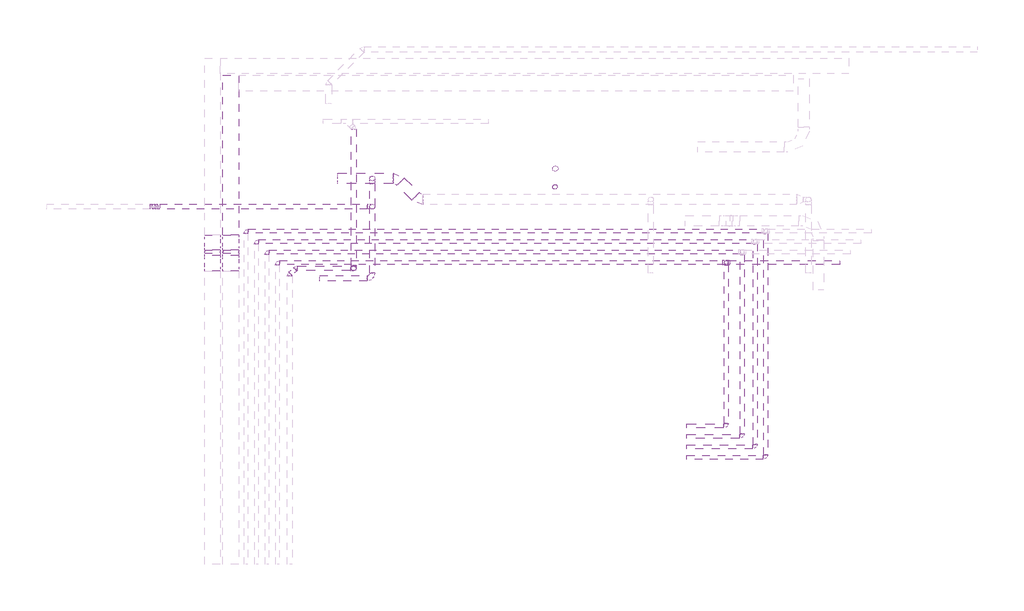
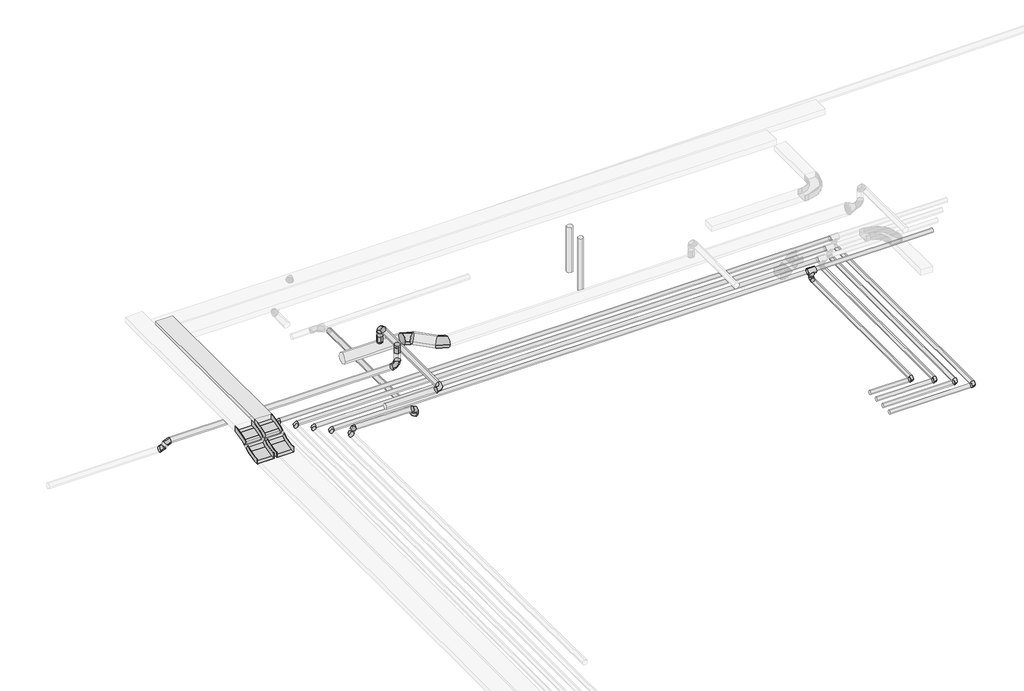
# One storey, part 4 of 5: 20 pipe segments, 14 pipe fittings, 9 duct fittings, 8 duct segments, 4 cable carrier fittings, 3 cable carrier segments.
"""IFC4 building model written with IfcOpenShell, lengths in millimetres."""

from ifc_helpers import new_model, si_unit, point, frame, frame_2d, origin, place, context, project, spatial, polyline, circle_curve, trimmed, segment, composite_curve, outline, extrude, transform, mapped, element, save
from components import m_codo_vertical_exterior_de_canal_el_c4dc7364, m_codo_vertical_interior_de_canal_el_3f65be50, ext_088e3dfa, ext_562ff85e, m_codo_redondo_ext_1_d_85067ab4, m_codo_redondo_ext_1_d_96ea52f9, m_codo_redondo_ext_1_d_d62552e0, m_codo_redondo_ext_1_d_b5125265, pipe_fitting_688cd524, pipe_fitting_7b861d32, pipe_fitting_3a68447e, t_soldadura_a_enchufe_ff252817

model = new_model("IFC4")

# Units and contexts
model_context = context("Model", 3, world=origin())
ifc_project = project(units=[si_unit("LENGTHUNIT", "METRE", prefix="MILLI")], contexts=[model_context])

# Site, building, storey
site = spatial("IfcSite", under=ifc_project)
building = spatial("IfcBuilding", under=site)
storey = spatial("IfcBuildingStorey", under=building, Name="Nivell 03 P03_PP", Elevation=18660.0)

# Cable carrier fittings
placement = place(None, origin())
m_codo_vertical_exterior_de_canal_el_shape = m_codo_vertical_exterior_de_canal_el_c4dc7364(model_context)
element("IfcCableCarrierFitting", 1, ObjectType="M_Codo vertical exterior de canal : EL", at=placement, inside=storey, context=model_context, shape_type="MappedRepresentation", body=[
    mapped(m_codo_vertical_exterior_de_canal_el_shape, transform((5357.0671065, 6149.6159499, 21960.0), x_axis=(0.0, -1.0, 0.0), y_axis=(0.0, 0.0, -1.0), z_axis=(1.0, 0.0, 0.0))),
])
element("IfcCableCarrierFitting", 2, ObjectType="M_Codo vertical exterior de canal : EL", at=placement, inside=storey, context=model_context, shape_type="MappedRepresentation", body=[
    mapped(m_codo_vertical_exterior_de_canal_el_shape, transform((5008.2381883, 6149.6159499, 21960.0), x_axis=(0.0, -1.0, 0.0), y_axis=(0.0, 0.0, -1.0), z_axis=(1.0, 0.0, 0.0))),
])
m_codo_vertical_interior_de_canal_el_shape = m_codo_vertical_interior_de_canal_el_3f65be50(model_context)
element("IfcCableCarrierFitting", 3, ObjectType="M_Codo vertical interior de canal : EL", at=placement, inside=storey, context=model_context, shape_type="MappedRepresentation", body=[
    mapped(m_codo_vertical_interior_de_canal_el_shape, transform((5357.0671065, 5803.2057884, 21760.0), x_axis=(0.0, -0.8660254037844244, -0.5000000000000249), y_axis=(0.0, -0.5000000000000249, 0.8660254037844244), z_axis=(-1.0, 0.0, 0.0))),
])
element("IfcCableCarrierFitting", 4, ObjectType="M_Codo vertical interior de canal : EL", at=placement, inside=storey, context=model_context, shape_type="MappedRepresentation", body=[
    mapped(m_codo_vertical_interior_de_canal_el_shape, transform((5008.2381883, 5803.2057884, 21760.0), x_axis=(0.0, -0.8660254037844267, -0.5000000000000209), y_axis=(0.0, -0.5000000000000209, 0.8660254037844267), z_axis=(-1.0, 0.0, 0.0))),
])

# Cable carrier segments
element("IfcCableCarrierSegment", 5, ObjectType="EL", at=placement, inside=storey, context=model_context, shape_type="SweptSolid", body=[
    extrude(outline(polyline([(5207.0671065, 9356.732053), (5507.0671065, 9356.732053), (5507.0671065, 6318.3981673), (5207.0671065, 6318.3981673), (5207.0671065, 9356.732053)])), frame((0.0, 0.0, 21910.0), z_axis=(0.0, 0.0, 1.0), x_axis=(1.0, 0.0, 0.0)), (0.0, 0.0, 1.0), 100.0),
])
element("IfcCableCarrierSegment", 6, ObjectType="EL", at=placement, inside=storey, context=model_context, shape_type="SweptSolid", body=[
    extrude(outline(polyline([(0.0, -300.0), (0.0, 0.0), (62.4355653, 0.0), (62.4355653, -300.0), (0.0, -300.0)])), frame((5507.0671065, 6028.446262, 21832.3076211), z_axis=(0.0, -0.5000000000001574, 0.8660254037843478), x_axis=(0.0, -0.8660254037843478, -0.5000000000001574)), (0.0, 0.0, 1.0), 100.0),
])
element("IfcCableCarrierSegment", 7, ObjectType="EL", at=placement, inside=storey, context=model_context, shape_type="SweptSolid", body=[
    extrude(outline(polyline([(0.0, -300.0), (0.0, 0.0), (62.4355653, 0.0), (62.4355653, -300.0), (0.0, -300.0)])), frame((5158.2381883, 6028.446262, 21832.3076211), z_axis=(0.0, -0.49999999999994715, 0.8660254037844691), x_axis=(0.0, -0.8660254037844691, -0.49999999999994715)), (0.0, 0.0, 1.0), 100.0),
])

# Duct fittings
ext_shape = ext_088e3dfa(model_context)
element("IfcDuctFitting", 8, ObjectType="M_Toma de derivación redonda : EXT", at=placement, inside=storey, context=model_context, shape_type="MappedRepresentation", body=[
    mapped(ext_shape, transform((8050.5896993, 6856.5337216, 22060.0), x_axis=(0.0, 0.0, -1.0), y_axis=(0.0, -1.0, 0.0), z_axis=(-1.0, 0.0, 0.0))),
])
ext_2_shape = ext_562ff85e(model_context)
element("IfcDuctFitting", 9, ObjectType="M_Toma de derivación redonda : EXT", at=placement, inside=storey, context=model_context, shape_type="MappedRepresentation", body=[
    mapped(ext_2_shape, transform((8050.5896993, 7392.2199701, 21840.0), x_axis=(0.0, 0.0, 1.0), y_axis=(-1.0, 0.0, 0.0), z_axis=(0.0, -1.0, 0.0))),
])
m_codo_redondo_ext_1_d_shape = m_codo_redondo_ext_1_d_85067ab4(model_context)
element("IfcDuctFitting", 10, ObjectType="M_Codo redondo : EXT_1 D", at=placement, inside=storey, context=model_context, shape_type="MappedRepresentation", body=[
    mapped(m_codo_redondo_ext_1_d_shape, transform((8050.5896993, 5490.7319202, 22110.0), x_axis=(1.0, 0.0, 0.0), y_axis=(0.0, 1.0, 0.0), z_axis=(0.0, 0.0, 1.0))),
])
element("IfcDuctFitting", 11, ObjectType="M_Codo redondo : EXT_1 D", at=placement, inside=storey, context=model_context, shape_type="MappedRepresentation", body=[
    mapped(m_codo_redondo_ext_1_d_shape, transform((8050.5896993, 6856.5337216, 21710.0), x_axis=(0.0, 0.0, -1.0), y_axis=(-1.0, 0.0, 0.0), z_axis=(0.0, 1.0, 0.0))),
])
m_codo_redondo_ext_1_d_2_shape = m_codo_redondo_ext_1_d_96ea52f9(model_context)
element("IfcDuctFitting", 12, ObjectType="M_Codo redondo : EXT_1 D", at=placement, inside=storey, context=model_context, shape_type="MappedRepresentation", body=[
    mapped(m_codo_redondo_ext_1_d_2_shape, transform((8050.5896993, 7392.2199701, 22110.0), x_axis=(0.0, 1.0, 0.0), y_axis=(0.0, 0.0, 1.0), z_axis=(1.0, 0.0, 0.0))),
])
m_codo_redondo_ext_1_d_3_shape = m_codo_redondo_ext_1_d_d62552e0(model_context)
element("IfcDuctFitting", 13, ObjectType="M_Codo redondo : EXT_1 D", at=placement, inside=storey, context=model_context, shape_type="MappedRepresentation", body=[
    mapped(m_codo_redondo_ext_1_d_3_shape, transform((8930.5896993, 6992.2199701, 21740.0), x_axis=(0.7071067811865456, -0.7071067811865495, 0.0), y_axis=(0.7071067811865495, 0.7071067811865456, 0.0), z_axis=(0.0, 0.0, 1.0))),
])
element("IfcDuctFitting", 14, ObjectType="M_Codo redondo : EXT_1 D", at=placement, inside=storey, context=model_context, shape_type="MappedRepresentation", body=[
    mapped(m_codo_redondo_ext_1_d_3_shape, transform((8530.5878282, 7392.2218412, 21740.0), x_axis=(-0.7071067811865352, 0.7071067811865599, 0.0), y_axis=(-0.7071067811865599, -0.7071067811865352, 0.0), z_axis=(0.0, 0.0, 1.0))),
])
m_codo_redondo_ext_1_d_4_shape = m_codo_redondo_ext_1_d_b5125265(model_context)
element("IfcDuctFitting", 15, ObjectType="M_Codo redondo : EXT_1 D", at=placement, inside=storey, context=model_context, shape_type="MappedRepresentation", body=[
    mapped(m_codo_redondo_ext_1_d_4_shape, transform((3864.5896993, 6856.5337216, 21610.0), x_axis=(1.0, 0.0, 0.0), y_axis=(0.0, 0.0, 1.0), z_axis=(0.0, -1.0, 0.0))),
])
element("IfcDuctFitting", 16, ObjectType="M_Codo redondo : EXT_1 D", at=placement, inside=storey, context=model_context, shape_type="MappedRepresentation", body=[
    mapped(m_codo_redondo_ext_1_d_4_shape, transform((3964.5896993, 6856.5337216, 21710.0), x_axis=(0.7071067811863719, 0.0, 0.7071067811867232), y_axis=(0.7071067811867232, 0.0, -0.7071067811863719), z_axis=(0.0, 1.0, 0.0))),
])

# Duct segments
element("IfcDuctSegment", 17, ObjectType="EXT_Acer Galvanitzat - Rígid", at=placement, inside=storey, context=model_context, shape_type="SweptSolid", body=[
    extrude(outline(composite_curve([segment(trimmed(circle_curve(frame_2d((5490.7319202, 22110.0)), 50.0), [point((5440.7319202, 22110.0))], [point((5490.7319202, 22160.0))], False, "CARTESIAN"), True, "CONTINUOUS"), segment(trimmed(circle_curve(frame_2d((5490.7319202, 22110.0)), 50.0), [point((5490.7319202, 22160.0))], [point((5540.7319202, 22110.0))], False, "CARTESIAN"), True, "CONTINUOUS"), segment(trimmed(circle_curve(frame_2d((5490.7319202, 22110.0)), 50.0), [point((5540.7319202, 22110.0))], [point((5490.7319202, 22060.0))], False, "CARTESIAN"), True, "CONTINUOUS"), segment(trimmed(circle_curve(frame_2d((5490.7319202, 22110.0)), 50.0), [point((5490.7319202, 22060.0))], [point((5440.7319202, 22110.0))], False, "CARTESIAN"), True, "CONTINUOUS")], self_intersect=False)), frame((7050.5896993, 0.0, 0.0), z_axis=(1.0, 0.0, 0.0), x_axis=(0.0, 1.0, 0.0)), (0.0, 0.0, 1.0), 900.0),
])
element("IfcDuctSegment", 18, ObjectType="EXT_Acer Galvanitzat - Rígid", at=placement, inside=storey, context=model_context, shape_type="SweptSolid", body=[
    extrude(outline(composite_curve([segment(trimmed(circle_curve(frame_2d((22110.0, 8050.5896993)), 50.0), [point((22110.0, 8000.5896993))], [point((22060.0, 8050.5896993))], False, "CARTESIAN"), True, "CONTINUOUS"), segment(trimmed(circle_curve(frame_2d((22110.0, 8050.5896993)), 50.0), [point((22060.0, 8050.5896993))], [point((22110.0, 8100.5896993))], False, "CARTESIAN"), True, "CONTINUOUS"), segment(trimmed(circle_curve(frame_2d((22110.0, 8050.5896993)), 50.0), [point((22110.0, 8100.5896993))], [point((22160.0, 8050.5896993))], False, "CARTESIAN"), True, "CONTINUOUS"), segment(trimmed(circle_curve(frame_2d((22110.0, 8050.5896993)), 50.0), [point((22160.0, 8050.5896993))], [point((22110.0, 8000.5896993))], False, "CARTESIAN"), True, "CONTINUOUS")], self_intersect=False)), frame((0.0, 5590.7319202, 0.0), z_axis=(0.0, 1.0, 0.0), x_axis=(0.0, 0.0, 1.0)), (0.0, 0.0, 1.0), 1701.48805),
])
element("IfcDuctSegment", 19, ObjectType="EXT_Acer Galvanitzat - Rígid", at=placement, inside=storey, context=model_context, shape_type="SweptSolid", body=[
    extrude(outline(composite_curve([segment(trimmed(circle_curve(frame_2d((8050.5896993, 7392.2199701)), 50.0), [point((8000.5896993, 7392.2199701))], [point((8050.5896993, 7442.2199701))], False, "CARTESIAN"), True, "CONTINUOUS"), segment(trimmed(circle_curve(frame_2d((8050.5896993, 7392.2199701)), 50.0), [point((8050.5896993, 7442.2199701))], [point((8100.5896993, 7392.2199701))], False, "CARTESIAN"), True, "CONTINUOUS"), segment(trimmed(circle_curve(frame_2d((8050.5896993, 7392.2199701)), 50.0), [point((8100.5896993, 7392.2199701))], [point((8050.5896993, 7342.2199701))], False, "CARTESIAN"), True, "CONTINUOUS"), segment(trimmed(circle_curve(frame_2d((8050.5896993, 7392.2199701)), 50.0), [point((8050.5896993, 7342.2199701))], [point((8000.5896993, 7392.2199701))], False, "CARTESIAN"), True, "CONTINUOUS")], self_intersect=False)), frame((0.0, 0.0, 21941.6), z_axis=(0.0, 0.0, 1.0), x_axis=(1.0, 0.0, 0.0)), (0.0, 0.0, 1.0), 68.4),
])
element("IfcDuctSegment", 20, ObjectType="EXT_Acer Galvanitzat - Rígid", at=placement, inside=storey, context=model_context, shape_type="SweptSolid", body=[
    extrude(outline(composite_curve([segment(trimmed(circle_curve(frame_2d((8050.5896993, 6856.5337216)), 50.0), [point((8050.5896993, 6906.5337216))], [point((8100.5896993, 6856.5337216))], False, "CARTESIAN"), True, "CONTINUOUS"), segment(trimmed(circle_curve(frame_2d((8050.5896993, 6856.5337216)), 50.0), [point((8100.5896993, 6856.5337216))], [point((8050.5896993, 6806.5337216))], False, "CARTESIAN"), True, "CONTINUOUS"), segment(trimmed(circle_curve(frame_2d((8050.5896993, 6856.5337216)), 50.0), [point((8050.5896993, 6806.5337216))], [point((8000.5896993, 6856.5337216))], False, "CARTESIAN"), True, "CONTINUOUS"), segment(trimmed(circle_curve(frame_2d((8050.5896993, 6856.5337216)), 50.0), [point((8000.5896993, 6856.5337216))], [point((8050.5896993, 6906.5337216))], False, "CARTESIAN"), True, "CONTINUOUS")], self_intersect=False)), frame((0.0, 0.0, 21810.0), z_axis=(0.0, 0.0, 1.0), x_axis=(1.0, 0.0, 0.0)), (0.0, 0.0, 1.0), 148.4),
])
element("IfcDuctSegment", 21, ObjectType="EXT_Acer Galvanitzat - Rígid", at=placement, inside=storey, context=model_context, shape_type="SweptSolid", body=[
    extrude(outline(composite_curve([segment(trimmed(circle_curve(frame_2d((0.0, 100.0)), 100.0), [point((100.0, 100.0))], [point((0.0, 0.0))], False, "CARTESIAN"), True, "CONTINUOUS"), segment(trimmed(circle_curve(frame_2d((0.0, 100.0)), 100.0), [point((0.0, 0.0))], [point((-100.0, 100.0))], False, "CARTESIAN"), True, "CONTINUOUS"), segment(trimmed(circle_curve(frame_2d((0.0, 100.0)), 100.0), [point((-100.0, 100.0))], [point((0.0, 200.0))], False, "CARTESIAN"), True, "CONTINUOUS"), segment(trimmed(circle_curve(frame_2d((0.0, 100.0)), 100.0), [point((0.0, 200.0))], [point((100.0, 100.0))], False, "CARTESIAN"), True, "CONTINUOUS")], self_intersect=False)), frame((8872.0110555, 7050.7986139, 21840.0), z_axis=(-0.7071067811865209, 0.7071067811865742, 0.0), x_axis=(0.7071067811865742, 0.7071067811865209, 0.0)), (0.0, 0.0, 1.0), 400.0026461),
])
element("IfcDuctSegment", 22, ObjectType="EXT_Acer Galvanitzat - Rígid", at=placement, inside=storey, context=model_context, shape_type="SweptSolid", body=[
    extrude(outline(composite_curve([segment(trimmed(circle_curve(frame_2d((7392.2218412, 21740.0)), 100.0), [point((7492.2218412, 21740.0))], [point((7392.2218412, 21640.0))], False, "CARTESIAN"), True, "CONTINUOUS"), segment(trimmed(circle_curve(frame_2d((7392.2218412, 21740.0)), 100.0), [point((7392.2218412, 21640.0))], [point((7292.2218412, 21740.0))], False, "CARTESIAN"), True, "CONTINUOUS"), segment(trimmed(circle_curve(frame_2d((7392.2218412, 21740.0)), 100.0), [point((7292.2218412, 21740.0))], [point((7392.2218412, 21840.0))], False, "CARTESIAN"), True, "CONTINUOUS"), segment(trimmed(circle_curve(frame_2d((7392.2218412, 21740.0)), 100.0), [point((7392.2218412, 21840.0))], [point((7492.2218412, 21740.0))], False, "CARTESIAN"), True, "CONTINUOUS")], self_intersect=False)), frame((7390.5878282, 0.0, 0.0), z_axis=(1.0, 0.0, 0.0), x_axis=(0.0, 1.0, 0.0)), (0.0, 0.0, 1.0), 1057.1572875),
])
element("IfcDuctSegment", 23, ObjectType="EXT_Acer Galvanitzat - Rígid", at=placement, inside=storey, context=model_context, shape_type="SweptSolid", body=[
    extrude(outline(composite_curve([segment(trimmed(circle_curve(frame_2d((0.0, 50.0)), 50.0), [point((0.0, 0.0))], [point((-49.9999999, 50.0))], False, "CARTESIAN"), True, "CONTINUOUS"), segment(trimmed(circle_curve(frame_2d((0.0, 50.0)), 50.0), [point((-49.9999999, 50.0))], [point((0.0, 100.0))], False, "CARTESIAN"), True, "CONTINUOUS"), segment(trimmed(circle_curve(frame_2d((0.0, 50.0)), 50.0), [point((0.0, 100.0))], [point((50.0000001, 50.0))], False, "CARTESIAN"), True, "CONTINUOUS"), segment(trimmed(circle_curve(frame_2d((0.0, 50.0)), 50.0), [point((50.0000001, 50.0))], [point((0.0, 0.0))], False, "CARTESIAN"), True, "CONTINUOUS")], self_intersect=False)), frame((3893.8790211, 6806.5337216, 21639.2893219), z_axis=(0.7071067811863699, 0.0, 0.7071067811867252), x_axis=(0.7071067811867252, 0.0, -0.7071067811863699)), (0.0, 0.0, 1.0), 58.5786438),
])
element("IfcDuctSegment", 24, ObjectType="EXT_Acer Galvanitzat - Rígid", at=placement, inside=storey, context=model_context, shape_type="SweptSolid", body=[
    extrude(outline(composite_curve([segment(trimmed(circle_curve(frame_2d((6856.5337216, 21710.0)), 50.0), [point((6906.5337216, 21710.0))], [point((6856.5337216, 21660.0))], False, "CARTESIAN"), True, "CONTINUOUS"), segment(trimmed(circle_curve(frame_2d((6856.5337216, 21710.0)), 50.0), [point((6856.5337216, 21660.0))], [point((6806.5337216, 21710.0))], False, "CARTESIAN"), True, "CONTINUOUS"), segment(trimmed(circle_curve(frame_2d((6856.5337216, 21710.0)), 50.0), [point((6806.5337216, 21710.0))], [point((6856.5337216, 21760.0))], False, "CARTESIAN"), True, "CONTINUOUS"), segment(trimmed(circle_curve(frame_2d((6856.5337216, 21710.0)), 50.0), [point((6856.5337216, 21760.0))], [point((6906.5337216, 21710.0))], False, "CARTESIAN"), True, "CONTINUOUS")], self_intersect=False)), frame((4006.0110555, 0.0, 0.0), z_axis=(1.0, 0.0, 0.0), x_axis=(0.0, 1.0, 0.0)), (0.0, 0.0, 1.0), 3944.5786438),
])

# Pipe fittings
pipe_fitting_shape = pipe_fitting_688cd524(model_context)
element("IfcPipeFitting", 25, ObjectType="M_Codo - Genérico : Estándar", at=placement, inside=storey, context=model_context, shape_type="MappedRepresentation", body=[
    mapped(pipe_fitting_shape, transform((7694.809888, 5681.3632161, 21744.4034263), x_axis=(0.9999500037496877, 0.0, -0.00999950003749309), y_axis=(-0.00999950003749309, 0.0, -0.9999500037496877), z_axis=(0.0, 1.0, 0.0))),
])
element("IfcPipeFitting", 26, ObjectType="M_Codo - Genérico : Estándar", at=placement, inside=storey, context=model_context, shape_type="MappedRepresentation", body=[
    mapped(pipe_fitting_shape, transform((7694.7858287, 5681.3903035, 21615.9087684), x_axis=(0.0, 0.0, -1.0), y_axis=(0.0, 1.0, 0.0), z_axis=(1.0, 0.0, 0.0))),
])
pipe_fitting_2_shape = pipe_fitting_7b861d32(model_context)
element("IfcPipeFitting", 27, ObjectType="M_Codo - Genérico : Estándar", at=placement, inside=storey, context=model_context, shape_type="MappedRepresentation", body=[
    mapped(pipe_fitting_2_shape, transform((6597.2281105, 5681.3586411, 21755.4028763), x_axis=(-0.9999500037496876, 0.0, 0.009999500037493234), y_axis=(4.1416859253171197e-05, -0.9999914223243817, 0.004141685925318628), z_axis=(0.009999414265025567, 0.004141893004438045, 0.9999414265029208))),
])
element("IfcPipeFitting", 28, ObjectType="M_Codo - Genérico : Estándar", at=placement, inside=storey, context=model_context, shape_type="MappedRepresentation", body=[
    mapped(pipe_fitting_2_shape, transform((6477.6345979, 5561.7651285, 21757.094184), x_axis=(-0.7070714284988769, -0.7070714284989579, 0.009999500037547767), y_axis=(0.7071300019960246, -0.7070714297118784, 0.00414168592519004), z_axis=(0.00414189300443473, 0.009999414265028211, 0.9999414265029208))),
])
pipe_fitting_3_shape = pipe_fitting_3a68447e(model_context)
element("IfcPipeFitting", 29, ObjectType="M_Codo - Genérico : Estándar", at=placement, inside=storey, context=model_context, shape_type="MappedRepresentation", body=[
    mapped(pipe_fitting_3_shape, transform((5645.7381883, 6394.2427547, 21772.5), x_axis=(-1.0, 0.0, 0.0), y_axis=(0.0, -1.0, 0.0), z_axis=(0.0, 0.0, 1.0))),
])
element("IfcPipeFitting", 30, ObjectType="M_Codo - Genérico : Estándar", at=placement, inside=storey, context=model_context, shape_type="MappedRepresentation", body=[
    mapped(pipe_fitting_3_shape, transform((5845.7381883, 6194.2427547, 21772.5), x_axis=(-1.0, 0.0, 0.0), y_axis=(0.0, -1.0, 0.0), z_axis=(0.0, 0.0, 1.0))),
])
element("IfcPipeFitting", 31, ObjectType="M_Codo - Genérico : Estándar", at=placement, inside=storey, context=model_context, shape_type="MappedRepresentation", body=[
    mapped(pipe_fitting_3_shape, transform((6045.7381883, 5994.2427547, 21772.5), x_axis=(-1.0, 0.0, 0.0), y_axis=(0.0, -1.0, 0.0), z_axis=(0.0, 0.0, 1.0))),
])
element("IfcPipeFitting", 32, ObjectType="M_Codo - Genérico : Estándar", at=placement, inside=storey, context=model_context, shape_type="MappedRepresentation", body=[
    mapped(pipe_fitting_3_shape, transform((6245.7381883, 5794.2427547, 21772.5), x_axis=(-1.0, 0.0, 0.0), y_axis=(0.0, -1.0, 0.0), z_axis=(0.0, 0.0, 1.0))),
])
element("IfcPipeFitting", 33, ObjectType="M_Codo - Genérico : Estándar", at=placement, inside=storey, context=model_context, shape_type="MappedRepresentation", body=[
    mapped(pipe_fitting_3_shape, transform((14787.4352568, 2683.4063617, 21622.5), x_axis=(1.0, 0.0, 0.0), y_axis=(0.0, 1.0, 0.0), z_axis=(0.0, 0.0, 1.0))),
])
element("IfcPipeFitting", 34, ObjectType="M_Codo - Genérico : Estándar", at=placement, inside=storey, context=model_context, shape_type="MappedRepresentation", body=[
    mapped(pipe_fitting_3_shape, transform((14787.4352568, 5794.2427547, 21622.5), x_axis=(0.0, 0.0, -1.0), y_axis=(0.0, -1.0, 0.0), z_axis=(-1.0, 0.0, 0.0))),
])
element("IfcPipeFitting", 35, ObjectType="M_Codo - Genérico : Estándar", at=placement, inside=storey, context=model_context, shape_type="MappedRepresentation", body=[
    mapped(pipe_fitting_3_shape, transform((15087.4352568, 2483.4063617, 21622.5), x_axis=(1.0, 0.0, 0.0), y_axis=(0.0, 1.0, 0.0), z_axis=(0.0, 0.0, 1.0))),
])
element("IfcPipeFitting", 36, ObjectType="M_Codo - Genérico : Estándar", at=placement, inside=storey, context=model_context, shape_type="MappedRepresentation", body=[
    mapped(pipe_fitting_3_shape, transform((15337.4352568, 2283.4063617, 21622.5), x_axis=(1.0, 0.0, 0.0), y_axis=(0.0, 1.0, 0.0), z_axis=(0.0, 0.0, 1.0))),
])
element("IfcPipeFitting", 37, ObjectType="M_Codo - Genérico : Estándar", at=placement, inside=storey, context=model_context, shape_type="MappedRepresentation", body=[
    mapped(pipe_fitting_3_shape, transform((15537.4352568, 2083.4063617, 21622.5), x_axis=(1.0, 0.0, 0.0), y_axis=(0.0, 1.0, 0.0), z_axis=(0.0, 0.0, 1.0))),
])
t_soldadura_a_enchufe_shape = t_soldadura_a_enchufe_ff252817(model_context)
element("IfcPipeFitting", 38, ObjectType="T-Soldadura a enchufe : Estándar", at=placement, inside=storey, context=model_context, shape_type="MappedRepresentation", body=[
    mapped(t_soldadura_a_enchufe_shape, transform((14787.4352568, 5794.2427547, 21772.5), x_axis=(-1.0, 0.0, 0.0), y_axis=(0.0, 0.0, 1.0), z_axis=(0.0, 1.0, 0.0))),
])

# Pipe segments
element("IfcPipeSegment", 39, ObjectType="PVC_Baixant", at=placement, inside=storey, context=model_context, shape_type="SweptSolid", body=[
    extrude(outline(composite_curve([segment(trimmed(circle_curve(frame_2d((11534.5619983, 7581.1908892)), 55.0), [point((11479.5619983, 7581.1908892))], [point((11534.5619983, 7636.1908892))], False, "CARTESIAN"), True, "CONTINUOUS"), segment(trimmed(circle_curve(frame_2d((11534.5619983, 7581.1908892)), 55.0), [point((11534.5619983, 7636.1908892))], [point((11589.5619983, 7581.1908892))], False, "CARTESIAN"), True, "CONTINUOUS"), segment(trimmed(circle_curve(frame_2d((11534.5619983, 7581.1908892)), 55.0), [point((11589.5619983, 7581.1908892))], [point((11534.5619983, 7526.1908892))], False, "CARTESIAN"), True, "CONTINUOUS"), segment(trimmed(circle_curve(frame_2d((11534.5619983, 7581.1908892)), 55.0), [point((11534.5619983, 7526.1908892))], [point((11479.5619983, 7581.1908892))], False, "CARTESIAN"), True, "CONTINUOUS")], self_intersect=False)), frame((0.0, 0.0, 21822.3112718), z_axis=(0.0, 0.0, 1.0), x_axis=(1.0, 0.0, 0.0)), (0.0, 0.0, 1.0), 837.6887282),
])
element("IfcPipeSegment", 40, ObjectType="PVC_Baixant", at=placement, inside=storey, context=model_context, shape_type="SweptSolid", body=[
    extrude(outline(composite_curve([segment(trimmed(circle_curve(frame_2d((0.0, 45.0)), 45.0), [point((-45.0, 45.0))], [point((1e-07, 90.0))], False, "CARTESIAN"), True, "CONTINUOUS"), segment(trimmed(circle_curve(frame_2d((0.0, 45.0)), 45.0), [point((1e-07, 90.0))], [point((45.0000001, 45.0))], False, "CARTESIAN"), True, "CONTINUOUS"), segment(trimmed(circle_curve(frame_2d((0.0, 45.0)), 45.0), [point((45.0000001, 45.0))], [point((0.0, 0.0))], False, "CARTESIAN"), True, "CONTINUOUS"), segment(trimmed(circle_curve(frame_2d((0.0, 45.0)), 45.0), [point((0.0, 0.0))], [point((-45.0, 45.0))], False, "CARTESIAN"), True, "CONTINUOUS")], self_intersect=False)), frame((11525.3277949, 7188.9123781, 21684.1560186), z_axis=(5.1728157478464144e-05, -1.4524516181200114e-05, 0.9999999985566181), x_axis=(0.9999999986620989, 7.513278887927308e-10, -5.1728157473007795e-05)), (0.0, 0.0, 1.0), 975.8433165),
])
element("IfcPipeSegment", 41, ObjectType="PPR_CLI_Aquatherm Blue Pipe", at=placement, inside=storey, context=model_context, shape_type="SweptSolid", body=[
    extrude(outline(composite_curve([segment(trimmed(circle_curve(frame_2d((2683.4063617, 21622.5)), 37.5), [point((2645.9063617, 21622.5))], [point((2683.4063617, 21660.0))], False, "CARTESIAN"), True, "CONTINUOUS"), segment(trimmed(circle_curve(frame_2d((2683.4063617, 21622.5)), 37.5), [point((2683.4063617, 21660.0))], [point((2720.9063617, 21622.5))], False, "CARTESIAN"), True, "CONTINUOUS"), segment(trimmed(circle_curve(frame_2d((2683.4063617, 21622.5)), 37.5), [point((2720.9063617, 21622.5))], [point((2683.4063617, 21585.0))], False, "CARTESIAN"), True, "CONTINUOUS"), segment(trimmed(circle_curve(frame_2d((2683.4063617, 21622.5)), 37.5), [point((2683.4063617, 21585.0))], [point((2645.9063617, 21622.5))], False, "CARTESIAN"), True, "CONTINUOUS")], self_intersect=False)), frame((14037.4352568, 0.0, 0.0), z_axis=(1.0, 0.0, 0.0), x_axis=(0.0, 1.0, 0.0)), (0.0, 0.0, 1.0), 704.5625),
])
element("IfcPipeSegment", 42, ObjectType="PPR_CLI_Aquatherm Blue Pipe", at=placement, inside=storey, context=model_context, shape_type="SweptSolid", body=[
    extrude(outline(composite_curve([segment(trimmed(circle_curve(frame_2d((21622.5, 14787.4352568)), 37.5), [point((21622.5, 14824.9352568))], [point((21660.0, 14787.4352568))], False, "CARTESIAN"), True, "CONTINUOUS"), segment(trimmed(circle_curve(frame_2d((21622.5, 14787.4352568)), 37.5), [point((21660.0, 14787.4352568))], [point((21622.5, 14749.9352568))], False, "CARTESIAN"), True, "CONTINUOUS"), segment(trimmed(circle_curve(frame_2d((21622.5, 14787.4352568)), 37.5), [point((21622.5, 14749.9352568))], [point((21585.0, 14787.4352568))], False, "CARTESIAN"), True, "CONTINUOUS"), segment(trimmed(circle_curve(frame_2d((21622.5, 14787.4352568)), 37.5), [point((21585.0, 14787.4352568))], [point((21622.5, 14824.9352568))], False, "CARTESIAN"), True, "CONTINUOUS")], self_intersect=False)), frame((0.0, 2728.8438617, 0.0), z_axis=(0.0, 1.0, 0.0), x_axis=(0.0, 0.0, 1.0)), (0.0, 0.0, 1.0), 3019.9613931),
])
element("IfcPipeSegment", 43, ObjectType="PPR_CLI_Aquatherm Blue Pipe", at=placement, inside=storey, context=model_context, shape_type="SweptSolid", body=[
    extrude(outline(composite_curve([segment(trimmed(circle_curve(frame_2d((2483.4063617, 21622.5)), 37.5), [point((2445.9063617, 21622.5))], [point((2483.4063617, 21660.0))], False, "CARTESIAN"), True, "CONTINUOUS"), segment(trimmed(circle_curve(frame_2d((2483.4063617, 21622.5)), 37.5), [point((2483.4063617, 21660.0))], [point((2520.9063617, 21622.5))], False, "CARTESIAN"), True, "CONTINUOUS"), segment(trimmed(circle_curve(frame_2d((2483.4063617, 21622.5)), 37.5), [point((2520.9063617, 21622.5))], [point((2483.4063617, 21585.0))], False, "CARTESIAN"), True, "CONTINUOUS"), segment(trimmed(circle_curve(frame_2d((2483.4063617, 21622.5)), 37.5), [point((2483.4063617, 21585.0))], [point((2445.9063617, 21622.5))], False, "CARTESIAN"), True, "CONTINUOUS")], self_intersect=False)), frame((14037.4352568, 0.0, 0.0), z_axis=(1.0, 0.0, 0.0), x_axis=(0.0, 1.0, 0.0)), (0.0, 0.0, 1.0), 1004.5625),
])
element("IfcPipeSegment", 44, ObjectType="PPR_CLI_Aquatherm Blue Pipe", at=placement, inside=storey, context=model_context, shape_type="SweptSolid", body=[
    extrude(outline(composite_curve([segment(trimmed(circle_curve(frame_2d((21622.5, 15087.4352568)), 37.5), [point((21622.5, 15124.9352568))], [point((21660.0, 15087.4352568))], False, "CARTESIAN"), True, "CONTINUOUS"), segment(trimmed(circle_curve(frame_2d((21622.5, 15087.4352568)), 37.5), [point((21660.0, 15087.4352568))], [point((21622.5, 15049.9352568))], False, "CARTESIAN"), True, "CONTINUOUS"), segment(trimmed(circle_curve(frame_2d((21622.5, 15087.4352568)), 37.5), [point((21622.5, 15049.9352568))], [point((21585.0, 15087.4352568))], False, "CARTESIAN"), True, "CONTINUOUS"), segment(trimmed(circle_curve(frame_2d((21622.5, 15087.4352568)), 37.5), [point((21585.0, 15087.4352568))], [point((21622.5, 15124.9352568))], False, "CARTESIAN"), True, "CONTINUOUS")], self_intersect=False)), frame((0.0, 2528.8438617, 0.0), z_axis=(0.0, 1.0, 0.0), x_axis=(0.0, 0.0, 1.0)), (0.0, 0.0, 1.0), 3419.9613931),
])
element("IfcPipeSegment", 45, ObjectType="PPR_CLI_Aquatherm Blue Pipe", at=placement, inside=storey, context=model_context, shape_type="SweptSolid", body=[
    extrude(outline(composite_curve([segment(trimmed(circle_curve(frame_2d((2283.4063617, 21622.5)), 37.5), [point((2245.9063617, 21622.5))], [point((2283.4063617, 21660.0))], False, "CARTESIAN"), True, "CONTINUOUS"), segment(trimmed(circle_curve(frame_2d((2283.4063617, 21622.5)), 37.5), [point((2283.4063617, 21660.0))], [point((2320.9063617, 21622.5))], False, "CARTESIAN"), True, "CONTINUOUS"), segment(trimmed(circle_curve(frame_2d((2283.4063617, 21622.5)), 37.5), [point((2320.9063617, 21622.5))], [point((2283.4063617, 21585.0))], False, "CARTESIAN"), True, "CONTINUOUS"), segment(trimmed(circle_curve(frame_2d((2283.4063617, 21622.5)), 37.5), [point((2283.4063617, 21585.0))], [point((2245.9063617, 21622.5))], False, "CARTESIAN"), True, "CONTINUOUS")], self_intersect=False)), frame((14037.4352568, 0.0, 0.0), z_axis=(1.0, 0.0, 0.0), x_axis=(0.0, 1.0, 0.0)), (0.0, 0.0, 1.0), 1254.5625),
])
element("IfcPipeSegment", 46, ObjectType="PPR_CLI_Aquatherm Blue Pipe", at=placement, inside=storey, context=model_context, shape_type="SweptSolid", body=[
    extrude(outline(composite_curve([segment(trimmed(circle_curve(frame_2d((21622.5, 15337.4352568)), 37.5), [point((21622.5, 15374.9352568))], [point((21660.0, 15337.4352568))], False, "CARTESIAN"), True, "CONTINUOUS"), segment(trimmed(circle_curve(frame_2d((21622.5, 15337.4352568)), 37.5), [point((21660.0, 15337.4352568))], [point((21622.5, 15299.9352568))], False, "CARTESIAN"), True, "CONTINUOUS"), segment(trimmed(circle_curve(frame_2d((21622.5, 15337.4352568)), 37.5), [point((21622.5, 15299.9352568))], [point((21585.0, 15337.4352568))], False, "CARTESIAN"), True, "CONTINUOUS"), segment(trimmed(circle_curve(frame_2d((21622.5, 15337.4352568)), 37.5), [point((21585.0, 15337.4352568))], [point((21622.5, 15374.9352568))], False, "CARTESIAN"), True, "CONTINUOUS")], self_intersect=False)), frame((0.0, 2328.8438617, 0.0), z_axis=(0.0, 1.0, 0.0), x_axis=(0.0, 0.0, 1.0)), (0.0, 0.0, 1.0), 3819.9613931),
])
element("IfcPipeSegment", 47, ObjectType="PPR_CLI_Aquatherm Blue Pipe", at=placement, inside=storey, context=model_context, shape_type="SweptSolid", body=[
    extrude(outline(composite_curve([segment(trimmed(circle_curve(frame_2d((2083.4063617, 21622.5)), 37.5), [point((2045.9063617, 21622.5))], [point((2083.4063617, 21660.0))], False, "CARTESIAN"), True, "CONTINUOUS"), segment(trimmed(circle_curve(frame_2d((2083.4063617, 21622.5)), 37.5), [point((2083.4063617, 21660.0))], [point((2120.9063617, 21622.5))], False, "CARTESIAN"), True, "CONTINUOUS"), segment(trimmed(circle_curve(frame_2d((2083.4063617, 21622.5)), 37.5), [point((2120.9063617, 21622.5))], [point((2083.4063617, 21585.0))], False, "CARTESIAN"), True, "CONTINUOUS"), segment(trimmed(circle_curve(frame_2d((2083.4063617, 21622.5)), 37.5), [point((2083.4063617, 21585.0))], [point((2045.9063617, 21622.5))], False, "CARTESIAN"), True, "CONTINUOUS")], self_intersect=False)), frame((14037.4352568, 0.0, 0.0), z_axis=(1.0, 0.0, 0.0), x_axis=(0.0, 1.0, 0.0)), (0.0, 0.0, 1.0), 1454.5625),
])
element("IfcPipeSegment", 48, ObjectType="PPR_CLI_Aquatherm Blue Pipe", at=placement, inside=storey, context=model_context, shape_type="SweptSolid", body=[
    extrude(outline(composite_curve([segment(trimmed(circle_curve(frame_2d((21622.5, 15537.4352568)), 37.5), [point((21622.5, 15574.9352568))], [point((21660.0, 15537.4352568))], False, "CARTESIAN"), True, "CONTINUOUS"), segment(trimmed(circle_curve(frame_2d((21622.5, 15537.4352568)), 37.5), [point((21660.0, 15537.4352568))], [point((21622.5, 15499.9352568))], False, "CARTESIAN"), True, "CONTINUOUS"), segment(trimmed(circle_curve(frame_2d((21622.5, 15537.4352568)), 37.5), [point((21622.5, 15499.9352568))], [point((21585.0, 15537.4352568))], False, "CARTESIAN"), True, "CONTINUOUS"), segment(trimmed(circle_curve(frame_2d((21622.5, 15537.4352568)), 37.5), [point((21585.0, 15537.4352568))], [point((21622.5, 15574.9352568))], False, "CARTESIAN"), True, "CONTINUOUS")], self_intersect=False)), frame((0.0, 2128.8438617, 0.0), z_axis=(0.0, 1.0, 0.0), x_axis=(0.0, 0.0, 1.0)), (0.0, 0.0, 1.0), 4219.9613931),
])
element("IfcPipeSegment", 49, ObjectType="PPR_CLI_Aquatherm Blue Pipe", at=placement, inside=storey, context=model_context, shape_type="SweptSolid", body=[
    extrude(outline(composite_curve([segment(trimmed(circle_curve(frame_2d((5794.2427547, 21772.5)), 37.5), [point((5756.7427547, 21772.5))], [point((5794.2427547, 21810.0))], False, "CARTESIAN"), True, "CONTINUOUS"), segment(trimmed(circle_curve(frame_2d((5794.2427547, 21772.5)), 37.5), [point((5794.2427547, 21810.0))], [point((5831.7427547, 21772.5))], False, "CARTESIAN"), True, "CONTINUOUS"), segment(trimmed(circle_curve(frame_2d((5794.2427547, 21772.5)), 37.5), [point((5831.7427547, 21772.5))], [point((5794.2427547, 21735.0))], False, "CARTESIAN"), True, "CONTINUOUS"), segment(trimmed(circle_curve(frame_2d((5794.2427547, 21772.5)), 37.5), [point((5794.2427547, 21735.0))], [point((5756.7427547, 21772.5))], False, "CARTESIAN"), True, "CONTINUOUS")], self_intersect=False)), frame((14825.9352568, 0.0, 0.0), z_axis=(1.0, 0.0, 0.0), x_axis=(0.0, 1.0, 0.0)), (0.0, 0.0, 1.0), 2116.3840359),
])
element("IfcPipeSegment", 50, ObjectType="PPR_CLI_Aquatherm Blue Pipe", at=placement, inside=storey, context=model_context, shape_type="SweptSolid", body=[
    extrude(outline(composite_curve([segment(trimmed(circle_curve(frame_2d((14787.4352568, 5794.2427547)), 37.5), [point((14824.9352568, 5794.2427547))], [point((14787.4352568, 5756.7427547))], False, "CARTESIAN"), True, "CONTINUOUS"), segment(trimmed(circle_curve(frame_2d((14787.4352568, 5794.2427547)), 37.5), [point((14787.4352568, 5756.7427547))], [point((14749.9352568, 5794.2427547))], False, "CARTESIAN"), True, "CONTINUOUS"), segment(trimmed(circle_curve(frame_2d((14787.4352568, 5794.2427547)), 37.5), [point((14749.9352568, 5794.2427547))], [point((14787.4352568, 5831.7427547))], False, "CARTESIAN"), True, "CONTINUOUS"), segment(trimmed(circle_curve(frame_2d((14787.4352568, 5794.2427547)), 37.5), [point((14787.4352568, 5831.7427547))], [point((14824.9352568, 5794.2427547))], False, "CARTESIAN"), True, "CONTINUOUS")], self_intersect=False)), frame((0.0, 0.0, 21667.9375), z_axis=(0.0, 0.0, 1.0), x_axis=(1.0, 0.0, 0.0)), (0.0, 0.0, 1.0), 66.0625),
])
element("IfcPipeSegment", 51, ObjectType="PPR_CLI_Aquatherm Blue Pipe", at=placement, inside=storey, context=model_context, shape_type="SweptSolid", body=[
    extrude(outline(composite_curve([segment(trimmed(circle_curve(frame_2d((5794.2427547, 21772.5)), 37.5), [point((5756.7427547, 21772.5))], [point((5794.2427547, 21810.0))], False, "CARTESIAN"), True, "CONTINUOUS"), segment(trimmed(circle_curve(frame_2d((5794.2427547, 21772.5)), 37.5), [point((5794.2427547, 21810.0))], [point((5831.7427547, 21772.5))], False, "CARTESIAN"), True, "CONTINUOUS"), segment(trimmed(circle_curve(frame_2d((5794.2427547, 21772.5)), 37.5), [point((5831.7427547, 21772.5))], [point((5794.2427547, 21735.0))], False, "CARTESIAN"), True, "CONTINUOUS"), segment(trimmed(circle_curve(frame_2d((5794.2427547, 21772.5)), 37.5), [point((5794.2427547, 21735.0))], [point((5756.7427547, 21772.5))], False, "CARTESIAN"), True, "CONTINUOUS")], self_intersect=False)), frame((6291.1756883, 0.0, 0.0), z_axis=(1.0, 0.0, 0.0), x_axis=(0.0, 1.0, 0.0)), (0.0, 0.0, 1.0), 8457.7595685),
])
element("IfcPipeSegment", 52, ObjectType="PPR_CLI_Aquatherm Blue Pipe", at=placement, inside=storey, context=model_context, shape_type="SweptSolid", body=[
    extrude(outline(composite_curve([segment(trimmed(circle_curve(frame_2d((5994.2427547, 21772.5)), 37.5), [point((5956.7427547, 21772.5))], [point((5994.2427547, 21810.0))], False, "CARTESIAN"), True, "CONTINUOUS"), segment(trimmed(circle_curve(frame_2d((5994.2427547, 21772.5)), 37.5), [point((5994.2427547, 21810.0))], [point((6031.7427547, 21772.5))], False, "CARTESIAN"), True, "CONTINUOUS"), segment(trimmed(circle_curve(frame_2d((5994.2427547, 21772.5)), 37.5), [point((6031.7427547, 21772.5))], [point((5994.2427547, 21735.0))], False, "CARTESIAN"), True, "CONTINUOUS"), segment(trimmed(circle_curve(frame_2d((5994.2427547, 21772.5)), 37.5), [point((5994.2427547, 21735.0))], [point((5956.7427547, 21772.5))], False, "CARTESIAN"), True, "CONTINUOUS")], self_intersect=False)), frame((6091.1756883, 0.0, 0.0), z_axis=(1.0, 0.0, 0.0), x_axis=(0.0, 1.0, 0.0)), (0.0, 0.0, 1.0), 8957.7595685),
])
element("IfcPipeSegment", 53, ObjectType="PPR_CLI_Aquatherm Blue Pipe", at=placement, inside=storey, context=model_context, shape_type="SweptSolid", body=[
    extrude(outline(composite_curve([segment(trimmed(circle_curve(frame_2d((6194.2427547, 21772.5)), 37.5), [point((6156.7427547, 21772.5))], [point((6194.2427547, 21810.0))], False, "CARTESIAN"), True, "CONTINUOUS"), segment(trimmed(circle_curve(frame_2d((6194.2427547, 21772.5)), 37.5), [point((6194.2427547, 21810.0))], [point((6231.7427547, 21772.5))], False, "CARTESIAN"), True, "CONTINUOUS"), segment(trimmed(circle_curve(frame_2d((6194.2427547, 21772.5)), 37.5), [point((6231.7427547, 21772.5))], [point((6194.2427547, 21735.0))], False, "CARTESIAN"), True, "CONTINUOUS"), segment(trimmed(circle_curve(frame_2d((6194.2427547, 21772.5)), 37.5), [point((6194.2427547, 21735.0))], [point((6156.7427547, 21772.5))], False, "CARTESIAN"), True, "CONTINUOUS")], self_intersect=False)), frame((5891.1756883, 0.0, 0.0), z_axis=(1.0, 0.0, 0.0), x_axis=(0.0, 1.0, 0.0)), (0.0, 0.0, 1.0), 9407.7595685),
])
element("IfcPipeSegment", 54, ObjectType="PPR_CLI_Aquatherm Blue Pipe", at=placement, inside=storey, context=model_context, shape_type="SweptSolid", body=[
    extrude(outline(composite_curve([segment(trimmed(circle_curve(frame_2d((6394.2427547, 21772.5)), 37.5), [point((6356.7427547, 21772.5))], [point((6394.2427547, 21810.0))], False, "CARTESIAN"), True, "CONTINUOUS"), segment(trimmed(circle_curve(frame_2d((6394.2427547, 21772.5)), 37.5), [point((6394.2427547, 21810.0))], [point((6431.7427547, 21772.5))], False, "CARTESIAN"), True, "CONTINUOUS"), segment(trimmed(circle_curve(frame_2d((6394.2427547, 21772.5)), 37.5), [point((6431.7427547, 21772.5))], [point((6394.2427547, 21735.0))], False, "CARTESIAN"), True, "CONTINUOUS"), segment(trimmed(circle_curve(frame_2d((6394.2427547, 21772.5)), 37.5), [point((6394.2427547, 21735.0))], [point((6356.7427547, 21772.5))], False, "CARTESIAN"), True, "CONTINUOUS")], self_intersect=False)), frame((5691.1756883, 0.0, 0.0), z_axis=(1.0, 0.0, 0.0), x_axis=(0.0, 1.0, 0.0)), (0.0, 0.0, 1.0), 9807.7595685),
])
element("IfcPipeSegment", 55, ObjectType="PVC_Baixant", at=placement, inside=storey, context=model_context, shape_type="SweptSolid", body=[
    extrude(outline(composite_curve([segment(trimmed(circle_curve(frame_2d((0.0, -45.0)), 45.0), [point((0.0200592, -89.9999955))], [point((-44.9999956, -45.0200592))], False, "CARTESIAN"), True, "CONTINUOUS"), segment(trimmed(circle_curve(frame_2d((0.0, -45.0)), 45.0), [point((-44.9999956, -45.0200592))], [point((-0.0200592, -4.4e-06))], False, "CARTESIAN"), True, "CONTINUOUS"), segment(trimmed(circle_curve(frame_2d((0.0, -45.0)), 45.0), [point((-0.0200592, -4.4e-06))], [point((44.9999955, -44.9799408))], False, "CARTESIAN"), True, "CONTINUOUS"), segment(trimmed(circle_curve(frame_2d((0.0, -45.0)), 45.0), [point((44.9999955, -44.9799408))], [point((0.0200592, -89.9999955))], False, "CARTESIAN"), True, "CONTINUOUS")], self_intersect=False)), frame((7642.9462368, 5726.3632116, 21744.942121), z_axis=(-0.9999497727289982, -4.467434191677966e-06, 0.01002257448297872), x_axis=(0.010022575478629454, -0.0004457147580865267, 0.9999496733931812)), (0.0, 0.0, 1.0), 1024.0723055),
])
element("IfcPipeSegment", 56, ObjectType="PVC_Baixant", at=placement, inside=storey, context=model_context, shape_type="SweptSolid", body=[
    extrude(outline(composite_curve([segment(trimmed(circle_curve(frame_2d((0.0, -45.0)), 45.0), [point((44.9977503, -45.449955))], [point((-0.4499551, -89.9977504))], False, "CARTESIAN"), True, "CONTINUOUS"), segment(trimmed(circle_curve(frame_2d((0.0, -45.0)), 45.0), [point((-0.4499551, -89.9977504))], [point((-44.9977504, -44.550045))], False, "CARTESIAN"), True, "CONTINUOUS"), segment(trimmed(circle_curve(frame_2d((0.0, -45.0)), 45.0), [point((-44.9977504, -44.550045))], [point((0.449955, -0.0022496))], False, "CARTESIAN"), True, "CONTINUOUS"), segment(trimmed(circle_curve(frame_2d((0.0, -45.0)), 45.0), [point((0.449955, -0.0022496))], [point((44.9977503, -45.449955))], False, "CARTESIAN"), True, "CONTINUOUS")], self_intersect=False)), frame((6581.8858329, 5666.6526959, 21800.6153496), z_axis=(-0.7070714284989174, -0.7070714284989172, 0.00999950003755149), x_axis=(0.7071421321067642, -0.7070007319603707, 0.009998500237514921)), (0.0, 0.0, 1.0), 125.7425399),
])
element("IfcPipeSegment", 57, ObjectType="PVC_Baixant", at=placement, inside=storey, context=model_context, shape_type="SweptSolid", body=[
    extrude(outline(composite_curve([segment(trimmed(circle_curve(frame_2d((0.0, -45.0)), 45.0), [point((-44.9999999, -44.9999522))], [point((4.79e-05, 0.0))], False, "CARTESIAN"), True, "CONTINUOUS"), segment(trimmed(circle_curve(frame_2d((0.0, -45.0)), 45.0), [point((4.79e-05, 0.0))], [point((45.0, -45.0000479))], False, "CARTESIAN"), True, "CONTINUOUS"), segment(trimmed(circle_curve(frame_2d((0.0, -45.0)), 45.0), [point((45.0, -45.0000479))], [point((-4.78e-05, -90.0))], False, "CARTESIAN"), True, "CONTINUOUS"), segment(trimmed(circle_curve(frame_2d((0.0, -45.0)), 45.0), [point((-4.78e-05, -90.0))], [point((-44.9999999, -44.9999522))], False, "CARTESIAN"), True, "CONTINUOUS")], self_intersect=False)), frame((7694.7858287, 5636.3903304, 21667.7257871), z_axis=(0.0009716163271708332, -0.0010939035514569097, 0.9999989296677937), x_axis=(-0.999999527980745, -1.0628550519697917e-06, 0.0009716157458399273)), (0.0, 0.0, 1.0), 24.7621958),
])
element("IfcPipeSegment", 58, ObjectType="PVC_Baixant", at=placement, inside=storey, context=model_context, shape_type="SweptSolid", body=[
    extrude(outline(composite_curve([segment(trimmed(circle_curve(frame_2d((0.0, 44.9999999)), 45.0), [point((-45.0, 44.9999999))], [point((0.0, 90.0))], False, "CARTESIAN"), True, "CONTINUOUS"), segment(trimmed(circle_curve(frame_2d((0.0, 44.9999999)), 45.0), [point((0.0, 90.0))], [point((45.0, 44.9999999))], False, "CARTESIAN"), True, "CONTINUOUS"), segment(trimmed(circle_curve(frame_2d((0.0, 44.9999999)), 45.0), [point((45.0, 44.9999999))], [point((0.0, 0.0))], False, "CARTESIAN"), True, "CONTINUOUS"), segment(trimmed(circle_curve(frame_2d((0.0, 44.9999999)), 45.0), [point((0.0, 0.0))], [point((-45.0, 44.9999999))], False, "CARTESIAN"), True, "CONTINUOUS")], self_intersect=False)), frame((7694.7851775, 8330.2540594, 21544.5712882), z_axis=(0.0, -0.9999500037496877, 0.009999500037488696), x_axis=(1.0, 0.0, 0.0)), (0.0, 0.0, 1.0), 2597.5784175),
])

save(model, "model.ifc")
